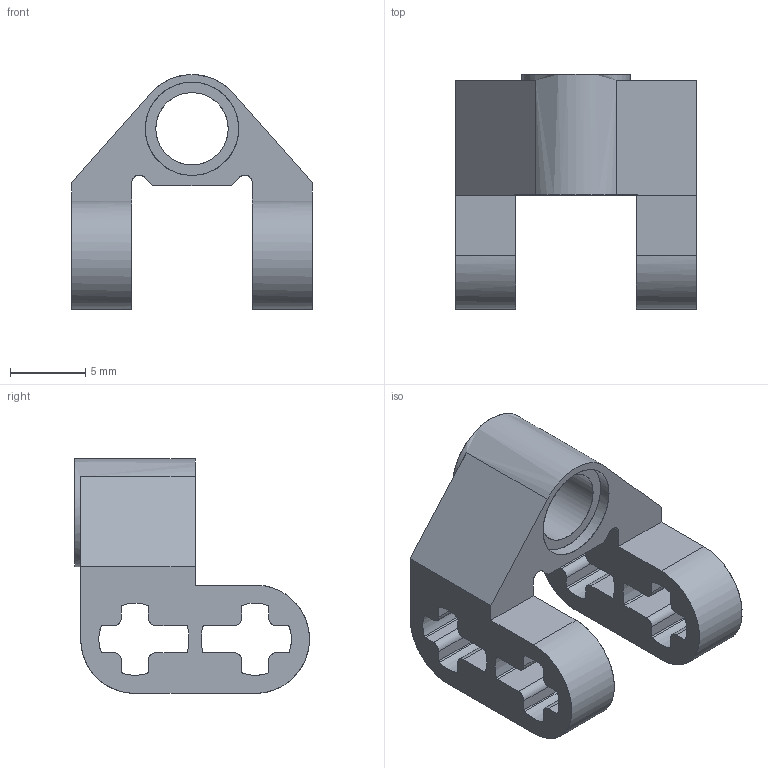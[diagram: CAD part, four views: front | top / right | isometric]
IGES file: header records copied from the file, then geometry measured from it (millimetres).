
Start section: C
Global section: file name: Black_4610371_AVV.iges; native system: By Siemens PLM Incorporated; preprocessor: XPlus GENERIC/IGES 26.1.183; author: Author; organization: Title; date: 20250721.234754; units: millimetre
Bounding box: 16 x 15.59 x 15.6 mm (x, y, z)
Surface area: 1379.3 mm2 (no closed solid volume)
Topology: 0 solids, 0 shells, 128 faces, 760 edges, 760 vertices
Faces by surface type: bspline 128
